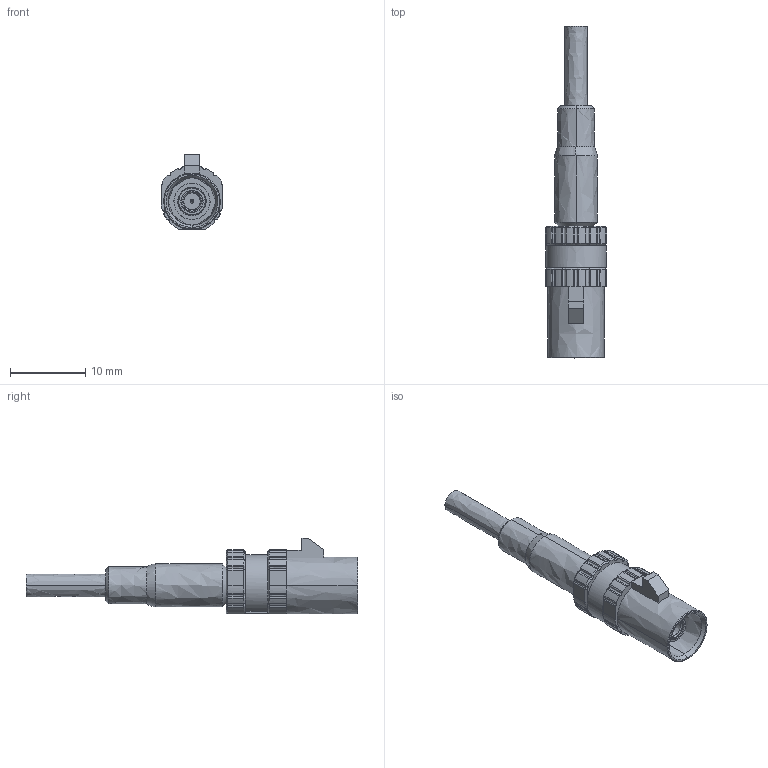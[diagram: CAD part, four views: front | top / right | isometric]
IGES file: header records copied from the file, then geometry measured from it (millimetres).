
Start section:  PTC IGES file: crc1001-5701f.igs
Global section: file name: crc1001-5701f.igs; native system: Creo Parametric by PTC Inc.; preprocessor: 2020454; author: smknikai; organization: Unknown; date: 20220314.180800; units: millimetre
Bounding box: 8.2 x 44.1 x 10 mm (x, y, z)
Volume: 1118 mm3; surface area: 1254.6 mm2
Topology: 1 solids, 1 shells, 318 faces, 751 edges, 377 vertices
Faces by surface type: bspline 318
